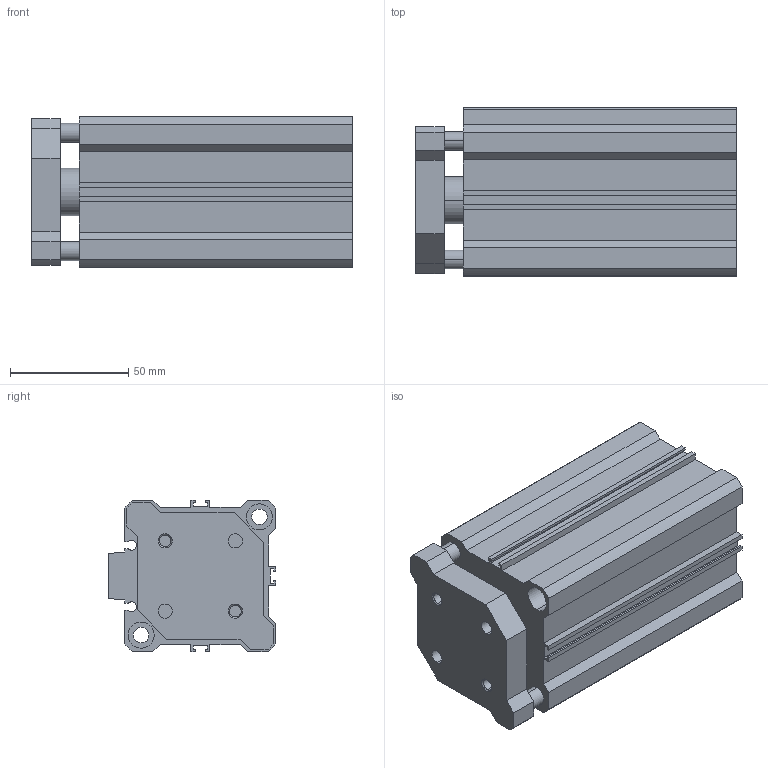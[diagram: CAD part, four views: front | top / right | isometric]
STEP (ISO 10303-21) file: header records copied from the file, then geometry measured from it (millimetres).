
FILE_DESCRIPTION (( 'STEP AP203' ), '1' );
FILE_NAME ('CCMG50-75.STEP', '2020-04-01T18:48:04', ( '' ), ( '' ), 'SwSTEP 2.0', 'SolidWorks 2019', '' );
FILE_SCHEMA (( 'CONFIG_CONTROL_DESIGN' ));
Length unit declared in the file: millimetre
Products named in the file (1): CCMG50-75
Bounding box: 135.5 x 71 x 64 mm (x, y, z)
Volume: 349474.3 mm3; surface area: 98895.7 mm2
Topology: 2 solids, 2 shells, 162 faces, 422 edges, 274 vertices
Faces by surface type: plane 92, cylinder 54, cone 16
Entity records: 5029 total; most frequent: DIRECTION 864, CARTESIAN_POINT 855, ORIENTED_EDGE 836, EDGE_CURVE 418, LINE 298, VECTOR 298, AXIS2_PLACEMENT_3D 283, VERTEX_POINT 274
